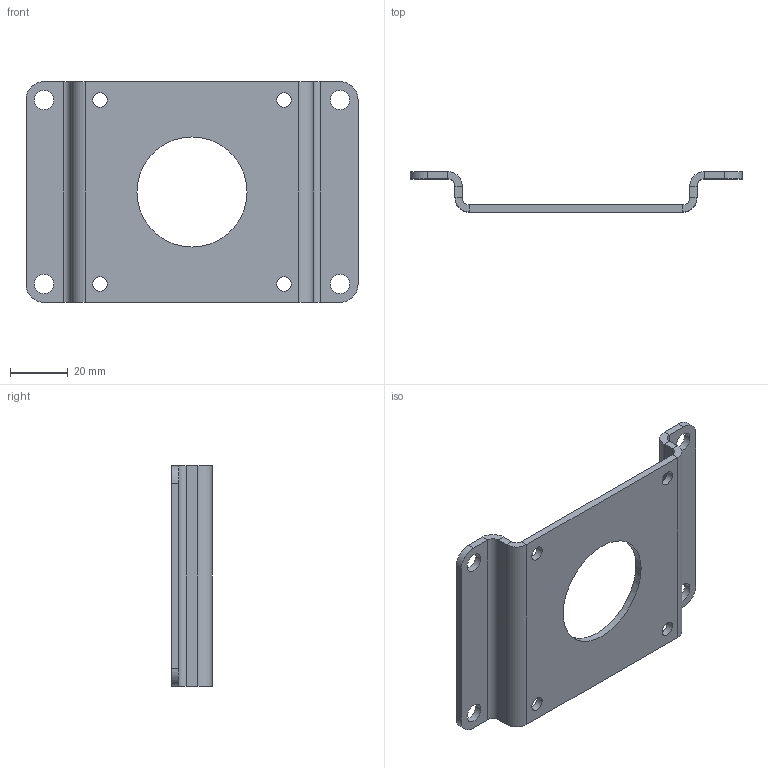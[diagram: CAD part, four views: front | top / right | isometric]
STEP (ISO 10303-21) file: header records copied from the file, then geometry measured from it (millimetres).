
FILE_DESCRIPTION(/* description */ (''),/* implementation_level */ '2;1');
FILE_NAME(/* name */ 'U:/AirCom-Produktdokumentation/Winkel/Zeichnungen/CAD-Aircom/3D/B-PQKT-02.step',/* time_stamp */ '2018-01-05T11:34:29+01:00',/* author */ (''),/* organization */ (''),/* preprocessor_version */ 'ST-DEVELOPER v16.13',/* originating_system */ 'Autodesk Translation Framework v6.5.0.72',/* authorisation */ '');
FILE_SCHEMA (('AUTOMOTIVE_DESIGN { 1 0 10303 214 3 1 1 }'));
Length unit declared in the file: millimetre
Products named in the file (1): (Nicht gespeichert)
Bounding box: 114.5 x 14 x 76 mm (x, y, z)
Volume: 21440.3 mm3; surface area: 18827.8 mm2
Topology: 1 solids, 1 shells, 51 faces, 115 edges, 66 vertices
Faces by surface type: plane 30, cylinder 21
Full cylindrical faces by diameter (mm): 5 x4, 6.7 x4, 38 x1
Entity records: 1464 total; most frequent: DIRECTION 261, CARTESIAN_POINT 233, ORIENTED_EDGE 230, EDGE_CURVE 115, AXIS2_PLACEMENT_3D 94, LINE 73, VECTOR 73, EDGE_LOOP 69
